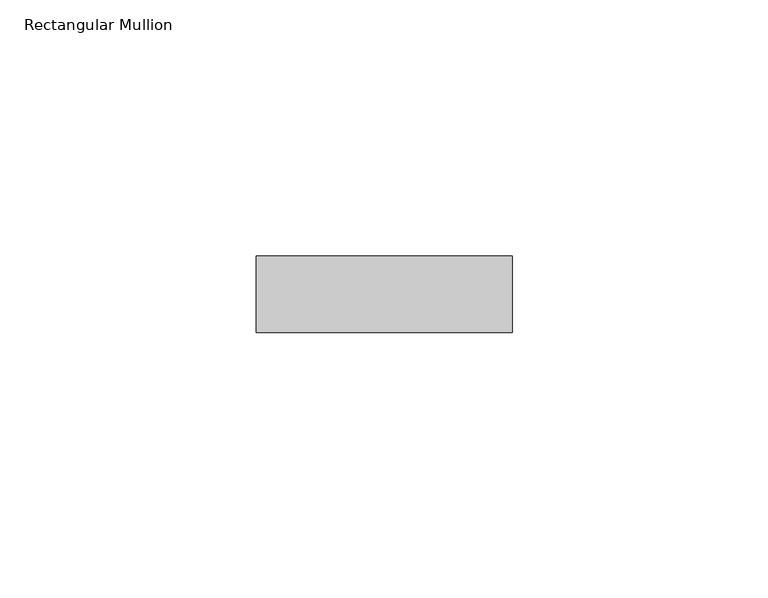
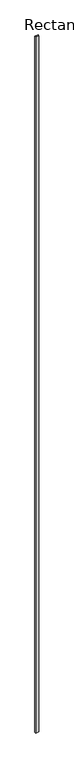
"""IFC4 building model written with IfcOpenShell, lengths in millimetres: member geometry, Rectangular Mullion : Ripa."""

from ifc_helpers import new_model, si_unit, frame, origin, place, context, project, spatial, polyline, outline, extrude, source, transform, mapped, element, save


def rectangular_mullion_2b643e74(model_context):
    return source(origin(), model_context, "Body", "SweptSolid", [
        extrude(outline(polyline([(0.0, -75.0), (-50.0, -75.0), (-50.0, -60.0), (0.0, -60.0), (0.0, -75.0)])), frame((0.0, 0.0, -10700.006484), z_axis=(0.0, 0.0, 1.0), x_axis=(1.0, 0.0, 0.0)), (0.0, 0.0, 1.0), 10700.006484),
    ])


if __name__ == "__main__":
    model = new_model("IFC4")
    model_context = context("Model", 3, world=origin())
    ifc_project = project(units=[si_unit("LENGTHUNIT", "METRE", prefix="MILLI")], contexts=[model_context])
    site = spatial("IfcSite", under=ifc_project)
    building = spatial("IfcBuilding", under=site)
    placement = place(None, origin())
    rectangular_mullion_shape = rectangular_mullion_2b643e74(model_context)
    element("IfcMember", 1, ObjectType="Rectangular Mullion : Ripa", at=placement, inside=building, context=model_context, shape_type="MappedRepresentation", body=[
        mapped(rectangular_mullion_shape, transform((0.0, 0.0, 0.0), x_axis=(1.0, 0.0, 0.0), y_axis=(0.0, 1.0, 0.0), z_axis=(0.0, 0.0, 1.0))),
    ])
    save(model, "model.ifc")
